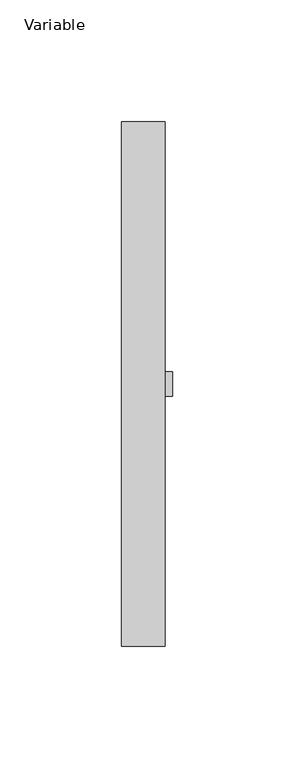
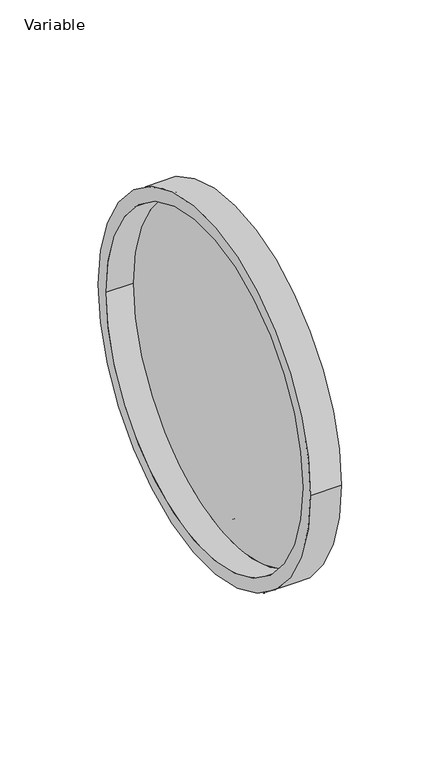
"""IFC4 building model written with IfcOpenShell, lengths in millimetres: pipe fitting geometry, AliaxisFR_Friaphon_ScrewCap_FR : Variable."""

from ifc_helpers import new_model, si_unit, point, frame, frame_2d, origin, place, context, project, spatial, polyline, circle_curve, trimmed, segment, composite_curve, outline, extrude, source, transform, mapped, element, save
from ifc_brep_helpers import plane_surface, cylinder_surface, revolved_surface, advanced_brep


def variable_3cc18dde(model_context):
    return source(origin(), model_context, "Body", "SolidModel", [
        extrude(outline(composite_curve([segment(trimmed(circle_curve(frame_2d((0.0, 90.0)), 5.0), [point((-5.0, 90.0))], [point((5.0, 90.0))], False, "CARTESIAN"), True, "CONTINUOUS"), segment(trimmed(circle_curve(frame_2d((0.0, 90.0)), 5.0), [point((5.0, 90.0))], [point((-5.0, 90.0))], False, "CARTESIAN"), True, "CONTINUOUS")], self_intersect=False), holes=[composite_curve([segment(trimmed(circle_curve(frame_2d((0.0, 90.0)), 3.0), [point((-3.0, 90.0))], [point((3.0, 90.0))], True, "CARTESIAN"), True, "CONTINUOUS"), segment(trimmed(circle_curve(frame_2d((0.0, 90.0)), 3.0), [point((3.0, 90.0))], [point((-3.0, 90.0))], True, "CARTESIAN"), True, "CONTINUOUS")], self_intersect=False)]), frame((18.0, 0.0, 0.0), z_axis=(1.0, 0.0, 0.0), x_axis=(0.0, 1.0, 0.0)), (0.0, 0.0, 1.0), 3.0),
        extrude(outline(composite_curve([segment(trimmed(circle_curve(frame_2d((0.0, -90.0)), 5.0), [point((-5.0, -90.0))], [point((5.0, -90.0))], False, "CARTESIAN"), True, "CONTINUOUS"), segment(trimmed(circle_curve(frame_2d((0.0, -90.0)), 5.0), [point((5.0, -90.0))], [point((-5.0, -90.0))], False, "CARTESIAN"), True, "CONTINUOUS")], self_intersect=False), holes=[composite_curve([segment(trimmed(circle_curve(frame_2d((0.0, -90.0)), 3.0), [point((-3.0, -90.0))], [point((3.0, -90.0))], True, "CARTESIAN"), True, "CONTINUOUS"), segment(trimmed(circle_curve(frame_2d((0.0, -90.0)), 3.0), [point((3.0, -90.0))], [point((-3.0, -90.0))], True, "CARTESIAN"), True, "CONTINUOUS")], self_intersect=False)]), frame((18.0, 0.0, 0.0), z_axis=(1.0, 0.0, 0.0), x_axis=(0.0, 1.0, 0.0)), (0.0, 0.0, 1.0), 3.0),
        advanced_brep(
        [(18.0, -108.0, 0.0), (18.0, 108.0, 0.0), (0.0, -108.0, 0.0), (0.0, 108.0, 0.0), (0.0, -100.0, 0.0), (0.0, 100.0, 0.0), (16.125, -100.0, 0.0), (16.125, 100.0, 0.0)],
        [
            (0, 1, circle_curve(frame((18.0, 0.0, 0.0), z_axis=(1.0, 0.0, 0.0), x_axis=(0.0, 1.0, 0.0)), 108.0)),
            (1, 0, circle_curve(frame((18.0, 0.0, 0.0), z_axis=(1.0, 0.0, 0.0), x_axis=(0.0, 1.0, 0.0)), 108.0)),
            (2, 3, circle_curve(frame((0.0, 0.0, 0.0), z_axis=(-1.0, 0.0, 0.0), x_axis=(0.0, 1.0, 0.0)), 108.0)),
            (3, 2, circle_curve(frame((0.0, 0.0, 0.0), z_axis=(-1.0, 0.0, 0.0), x_axis=(0.0, 1.0, 0.0)), 108.0)),
            (4, 5, circle_curve(frame((0.0, 0.0, 0.0), z_axis=(1.0, 0.0, 0.0), x_axis=(0.0, 1.0, 0.0)), 100.0)),
            (5, 4, circle_curve(frame((0.0, 0.0, 0.0), z_axis=(1.0, 0.0, 0.0), x_axis=(0.0, 1.0, 0.0)), 100.0)),
            (0, 2),
            (3, 1),
            (6, 7, circle_curve(frame((16.125, 0.0, 0.0), z_axis=(-1.0, 0.0, 0.0), x_axis=(0.0, 1.0, 0.0)), 100.0)),
            (7, 6, circle_curve(frame((16.125, 0.0, 0.0), z_axis=(-1.0, 0.0, 0.0), x_axis=(0.0, 1.0, 0.0)), 100.0)),
            (7, 5),
            (4, 6),
        ],
        [
            plane_surface(frame((18.0, 108.0, 0.0), z_axis=(1.0, 0.0, 0.0), x_axis=(0.0, 0.0, 1.0))),
            plane_surface(frame((0.0, 108.0, 0.0), z_axis=(-1.0, 0.0, 0.0), x_axis=(0.0, 0.0, -1.0))),
            cylinder_surface(frame((0.0, 0.0, 0.0), z_axis=(1.0, 0.0, 0.0), x_axis=(0.0, 1.0, 0.0)), 108.0),
            plane_surface(frame((16.125, 100.0, 0.0), z_axis=(-1.0, 0.0, 0.0), x_axis=(0.0, 0.0, 1.0))),
            revolved_surface(polyline([(16.125, 100.0, 0.0), (0.0, 100.0, 0.0)]), (0.0, 0.0, 0.0), (1.0, 0.0, 0.0)),
        ],
        [
            (0, [[1, 2]]),
            (1, [[3, 4], [5, 6]]),
            (2, [[-1, 7, -4, 8]]),
            (2, [[-2, -8, -3, -7]]),
            (3, [[9, 10]]),
            (4, [[-10, 11, -5, 12]]),
            (4, [[-9, -12, -6, -11]]),
        ],
    ),
    ])


if __name__ == "__main__":
    model = new_model("IFC4")
    model_context = context("Model", 3, world=origin())
    ifc_project = project(units=[si_unit("LENGTHUNIT", "METRE", prefix="MILLI")], contexts=[model_context])
    site = spatial("IfcSite", under=ifc_project)
    building = spatial("IfcBuilding", under=site)
    placement = place(None, origin())
    variable_shape = variable_3cc18dde(model_context)
    element("IfcPipeFitting", 1, ObjectType="AliaxisFR_Friaphon_ScrewCap_FR : Variable", at=placement, inside=building, context=model_context, shape_type="MappedRepresentation", body=[
        mapped(variable_shape, transform((0.0, 0.0, 0.0), x_axis=(1.0, 0.0, 0.0), y_axis=(0.0, 1.0, 0.0), z_axis=(0.0, 0.0, 1.0))),
    ])
    save(model, "model.ifc")
